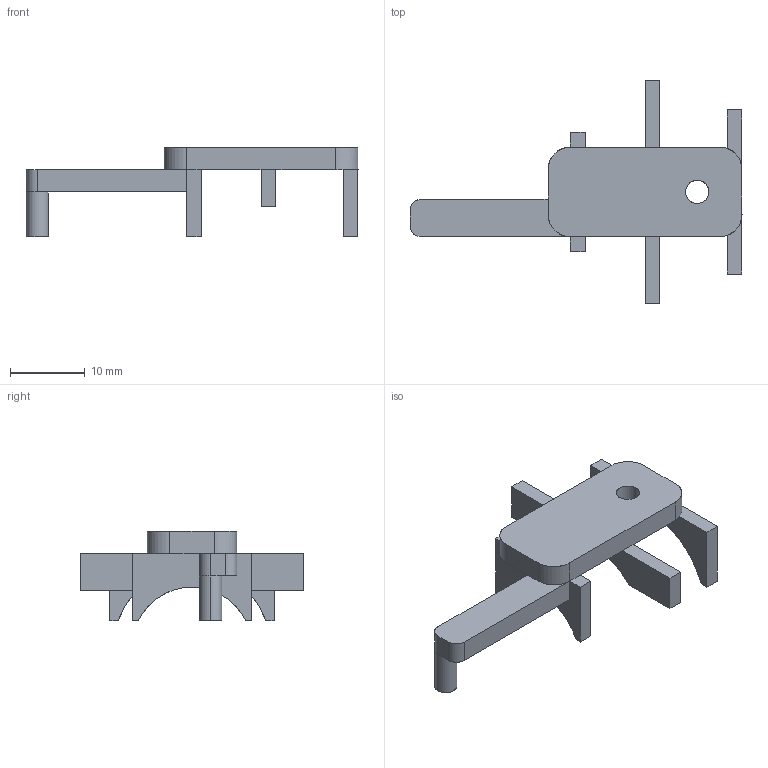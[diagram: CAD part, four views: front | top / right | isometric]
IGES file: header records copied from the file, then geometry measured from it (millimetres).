
Start section: SolidWorks IGES FILE using analytic representation for surfaces
Global section: file name: C:\Documents and Settings\Etienne\Mes documents\TRAVAUX en cours\VEHICULE JOUET\Prototype CharyGraal\SUPPORT MOTEUR.IGS; native system: SolidWorks 2001 by SolidWorks Corporation; preprocessor: Version 5.3; author: Etienne; date: 050207.190617; units: millimetre
Bounding box: 44.5 x 30 x 12 mm (x, y, z)
Surface area: 2082 mm2 (no closed solid volume)
Topology: 0 solids, 0 shells, 51 faces, 653 edges, 783 vertices
Faces by surface type: bspline 37, revolution 14
